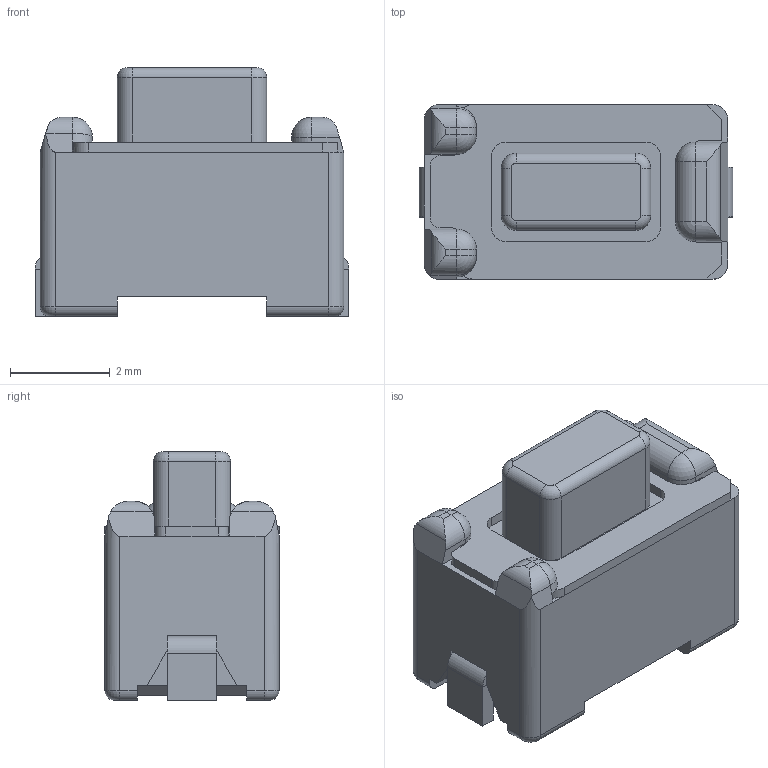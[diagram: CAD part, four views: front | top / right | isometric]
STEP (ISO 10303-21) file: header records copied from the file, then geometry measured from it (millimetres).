
FILE_DESCRIPTION (( 'STEP AP214' ), '1' );
FILE_NAME ('SKQMAT.STEP', '2009-12-17T03:59:17', ( '' ), ( '' ), 'SwSTEP 2.0', 'SolidWorks 2007', '' );
FILE_SCHEMA (( 'AUTOMOTIVE_DESIGN' ));
Length unit declared in the file: millimetre
Products named in the file (1): SKQMAT
Bounding box: 6.3 x 3.5 x 5 mm (x, y, z)
Volume: 76.9 mm3; surface area: 135.9 mm2
Topology: 1 solids, 1 shells, 175 faces, 465 edges, 282 vertices
Faces by surface type: plane 99, cylinder 62, torus 8, sphere 6
Entity records: 7281 total; most frequent: CARTESIAN_POINT 989, ORIENTED_EDGE 918, DIRECTION 917, EDGE_CURVE 459, VECTOR 313, LINE 313, AXIS2_PLACEMENT_3D 302, VERTEX_POINT 282
